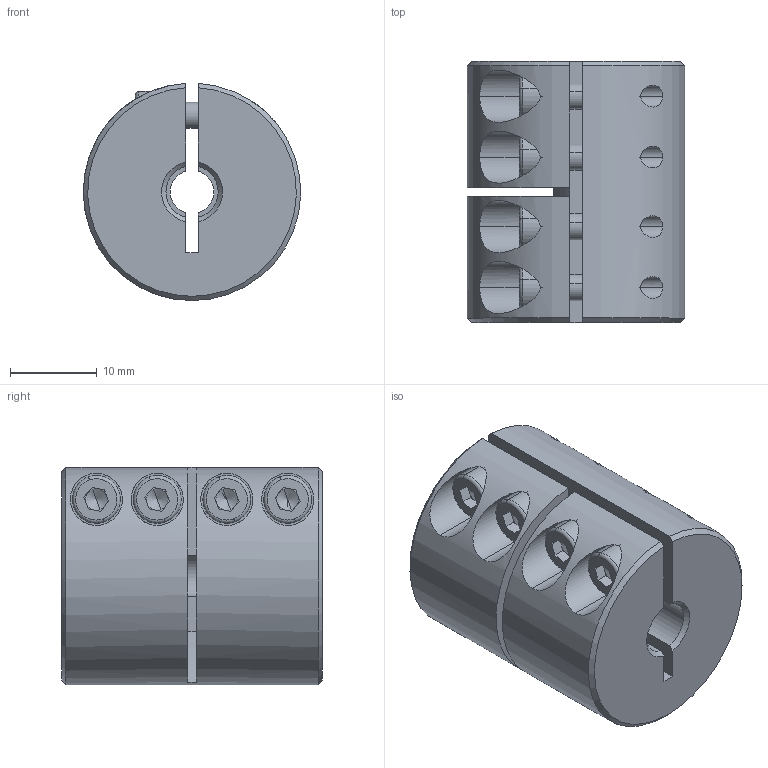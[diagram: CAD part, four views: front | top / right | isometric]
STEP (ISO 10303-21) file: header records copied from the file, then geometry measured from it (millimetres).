
FILE_DESCRIPTION (( 'STEP AP214' ), '1' );
FILE_NAME ('LL-B-D25L30-5-6½¨Ä£.STEP', '2022-07-21T03:03:09', ( '' ), ( '' ), 'SwSTEP 2.0', 'SolidWorks 2022', '' );
FILE_SCHEMA (( 'AUTOMOTIVE_DESIGN' ));
Length unit declared in the file: millimetre
Products named in the file (1): LL-B-D25L30-5-6膘耀
Bounding box: 24.99 x 30 x 24.98 mm (x, y, z)
Volume: 12758.3 mm3; surface area: 5903.9 mm2
Topology: 1 solids, 1 shells, 164 faces, 418 edges, 264 vertices
Faces by surface type: plane 83, cylinder 58, cone 15, torus 8
Entity records: 5402 total; most frequent: CARTESIAN_POINT 1363, DIRECTION 862, ORIENTED_EDGE 820, EDGE_CURVE 410, AXIS2_PLACEMENT_3D 331, VERTEX_POINT 264, VECTOR 200, LINE 200
